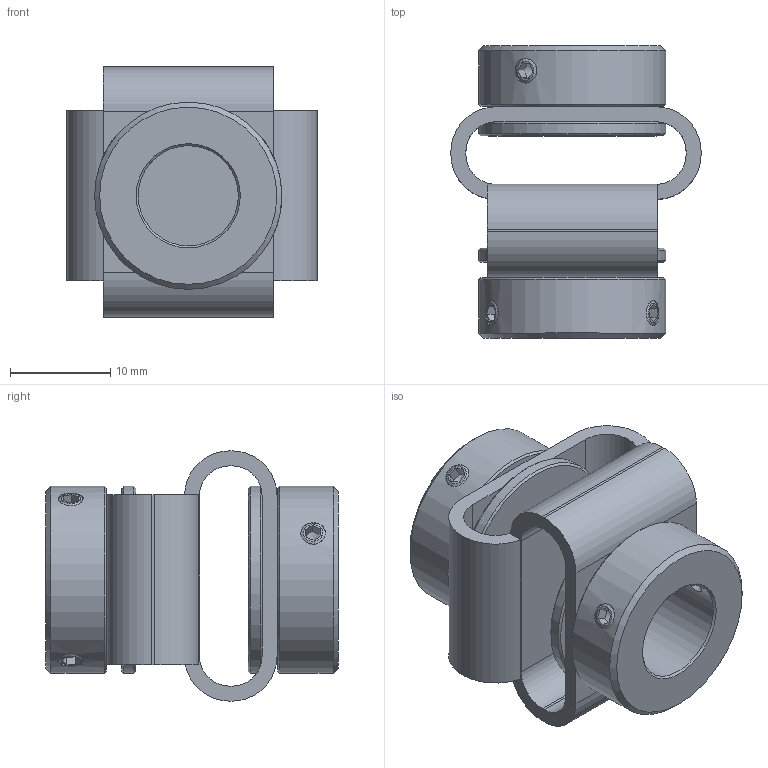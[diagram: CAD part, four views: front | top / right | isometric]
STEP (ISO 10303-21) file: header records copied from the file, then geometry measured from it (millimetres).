
FILE_DESCRIPTION(/* description */ (''),/* implementation_level */ '2;1');
FILE_NAME(/* name */ 'Z:\ABP-Antriebstechnik\Entwicklung-3D\Paguflex\DKPS 2928 08 10.stp',/* time_stamp */ '2017-06-30T08:10:32+02:00',/* author */ ('werner.boesinger'),/* organization */ (''),/* preprocessor_version */ 'ST-DEVELOPER v16.1',/* originating_system */ 'Autodesk Inventor 2016',/* authorisation */ '');
FILE_SCHEMA (('AUTOMOTIVE_DESIGN { 1 0 10303 214 3 1 1 }'));
Length unit declared in the file: millimetre
Products named in the file (1): DKPS 2928 08 10
Bounding box: 25 x 29.2 x 25 mm (x, y, z)
Volume: 5269.2 mm3; surface area: 5397.6 mm2
Topology: 1 solids, 3 shells, 154 faces, 366 edges, 226 vertices
Faces by surface type: plane 90, cylinder 36, cone 28
Full cylindrical faces by diameter (mm): 2.459 x8, 8 x1, 10 x1, 12.5 x2, 14 x4, 18.7 x4
Entity records: 4367 total; most frequent: CARTESIAN_POINT 961, DIRECTION 694, ORIENTED_EDGE 572, EDGE_CURVE 286, AXIS2_PLACEMENT_3D 273, EDGE_LOOP 220, VERTEX_POINT 192, STYLED_ITEM 155
